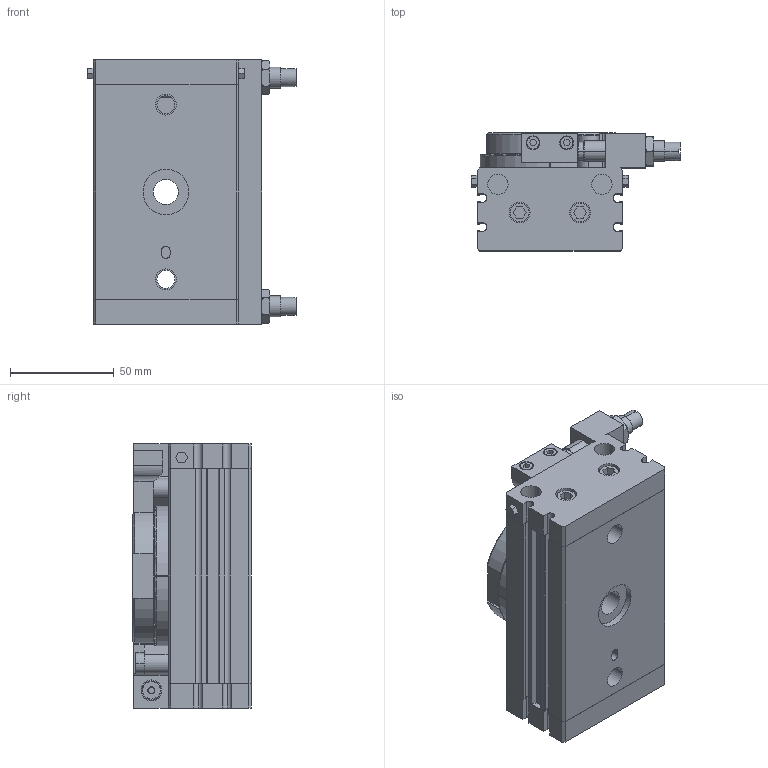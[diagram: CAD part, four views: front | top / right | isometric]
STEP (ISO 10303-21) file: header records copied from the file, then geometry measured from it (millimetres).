
FILE_DESCRIPTION (( 'STEP AP214' ), '1' );
FILE_NAME ('MSQB30L2.step.step', '2022-12-05T20:13:25', ( '' ), ( '' ), 'SwSTEP 2.0', 'SolidWorks 2022', '' );
FILE_SCHEMA (( 'AUTOMOTIVE_DESIGN' ));
Length unit declared in the file: millimetre
Products named in the file (7): MSQB30L2.step_Rb-Rod_1006; MSQB30L2.step_Rb-Body_10; MSQB30L2.step_Rb-Nut_10; MSQB30L2.step; MSQB30L2.step_MSQ-Top_30-180; MSQB30L2.step_MSQ-Body_30; MSQB30L2.step_Rb2118_RB1006
Assembly tree (8 placements, depth 3):
  MSQB30L2.step
    MSQB30L2.step_MSQ-Body_30
    MSQB30L2.step_MSQ-Top_30-180
    MSQB30L2.step_Rb2118_RB1006  x2
      MSQB30L2.step_Rb-Body_10
      MSQB30L2.step_Rb-Rod_1006
    MSQB30L2.step_Rb-Nut_10  x2
Bounding box: 100.5 x 57 x 127 mm (x, y, z)
Volume: 427136.1 mm3; surface area: 91811.8 mm2
Topology: 8 solids, 12 shells, 555 faces, 1387 edges, 910 vertices
Faces by surface type: plane 321, cylinder 172, torus 33, cone 29
Entity records: 16834 total; most frequent: CARTESIAN_POINT 2995, DIRECTION 2566, ORIENTED_EDGE 2494, EDGE_CURVE 1247, AXIS2_PLACEMENT_3D 865, LINE 836, VECTOR 836, VERTEX_POINT 820
